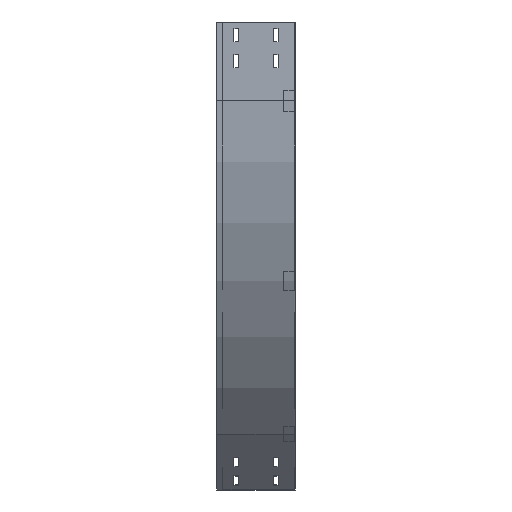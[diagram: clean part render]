
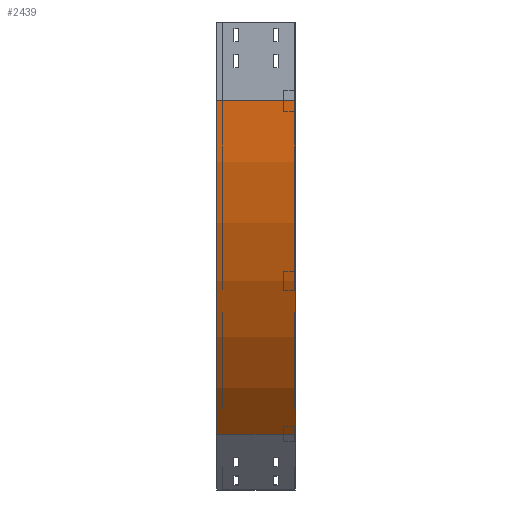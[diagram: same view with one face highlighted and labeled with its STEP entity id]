
A CAD part, left-side view. The second image highlights one B-rep face of the part: STEP entity #2439.
In plain terms, the highlighted cylindrical face has radius 900 mm (diameter 1800 mm), a partial arc.
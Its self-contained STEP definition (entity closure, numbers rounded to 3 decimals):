
#22 = CARTESIAN_POINT ( 'NONE',  ( 900., 150., -150. ) ) ;
#42 = VECTOR ( 'NONE', #2700, 1000. ) ;
#179 = AXIS2_PLACEMENT_3D ( 'NONE', #2010, #525, #3139 ) ;
#272 = VERTEX_POINT ( 'NONE', #3826 ) ;
#278 = CARTESIAN_POINT ( 'NONE',  ( 263.604, 150., -786.396 ) ) ;
#283 = CYLINDRICAL_SURFACE ( 'NONE', #867, 900. ) ;
#392 = EDGE_CURVE ( 'NONE', #3677, #272, #1524, .T. ) ;
#475 = VERTEX_POINT ( 'NONE', #1643 ) ;
#525 = DIRECTION ( 'NONE',  ( 0., -1., 0. ) ) ;
#581 = DIRECTION ( 'NONE',  ( 0., -1., 0. ) ) ;
#596 = DIRECTION ( 'NONE',  ( 0., 0., -1. ) ) ;
#729 = CARTESIAN_POINT ( 'NONE',  ( 0., 0., -150. ) ) ;
#867 = AXIS2_PLACEMENT_3D ( 'NONE', #1778, #581, #596 ) ;
#943 = DIRECTION ( 'NONE',  ( -1., 0., 0. ) ) ;
#1288 = CARTESIAN_POINT ( 'NONE',  ( 263.604, 0., -786.396 ) ) ;
#1366 = EDGE_CURVE ( 'NONE', #2133, #272, #3277, .T. ) ;
#1524 = LINE ( 'NONE', #1288, #42 ) ;
#1530 = DIRECTION ( 'NONE',  ( 0., -1., 0. ) ) ;
#1577 = DIRECTION ( 'NONE',  ( 0., -1., 0. ) ) ;
#1643 = CARTESIAN_POINT ( 'NONE',  ( 0., 150., -150. ) ) ;
#1778 = CARTESIAN_POINT ( 'NONE',  ( 900., 0., -150. ) ) ;
#2010 = CARTESIAN_POINT ( 'NONE',  ( 900., 0., -150. ) ) ;
#2123 = AXIS2_PLACEMENT_3D ( 'NONE', #22, #1530, #943 ) ;
#2133 = VERTEX_POINT ( 'NONE', #729 ) ;
#2179 = CARTESIAN_POINT ( 'NONE',  ( 0., 0., -150. ) ) ;
#2232 = ORIENTED_EDGE ( 'NONE', *, *, #1366, .F. ) ;
#2375 = FACE_OUTER_BOUND ( 'NONE', #3659, .T. ) ;
#2439 = ADVANCED_FACE ( 'NONE', ( #2375 ), #283, .T. ) ;
#2700 = DIRECTION ( 'NONE',  ( 0., -1., 0. ) ) ;
#2972 = EDGE_CURVE ( 'NONE', #475, #3677, #3228, .T. ) ;
#3042 = LINE ( 'NONE', #2179, #3543 ) ;
#3139 = DIRECTION ( 'NONE',  ( -1., 0., 0. ) ) ;
#3228 = CIRCLE ( 'NONE', #2123, 900. ) ;
#3277 = CIRCLE ( 'NONE', #179, 900. ) ;
#3332 = ORIENTED_EDGE ( 'NONE', *, *, #3522, .F. ) ;
#3452 = ORIENTED_EDGE ( 'NONE', *, *, #392, .T. ) ;
#3522 = EDGE_CURVE ( 'NONE', #475, #2133, #3042, .T. ) ;
#3543 = VECTOR ( 'NONE', #1577, 1000. ) ;
#3659 = EDGE_LOOP ( 'NONE', ( #2232, #3332, #3719, #3452 ) ) ;
#3677 = VERTEX_POINT ( 'NONE', #278 ) ;
#3719 = ORIENTED_EDGE ( 'NONE', *, *, #2972, .T. ) ;
#3826 = CARTESIAN_POINT ( 'NONE',  ( 263.604, 0., -786.396 ) ) ;
